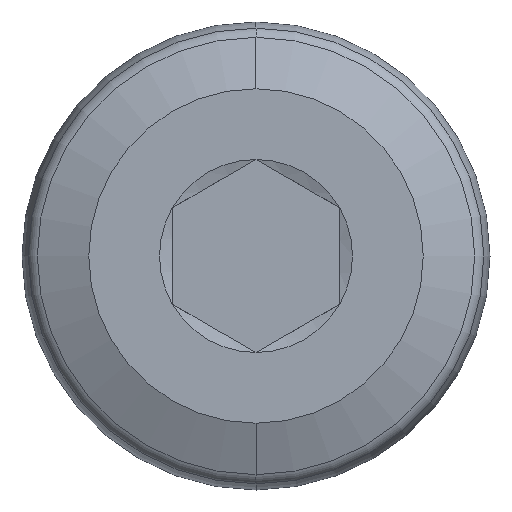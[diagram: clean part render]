
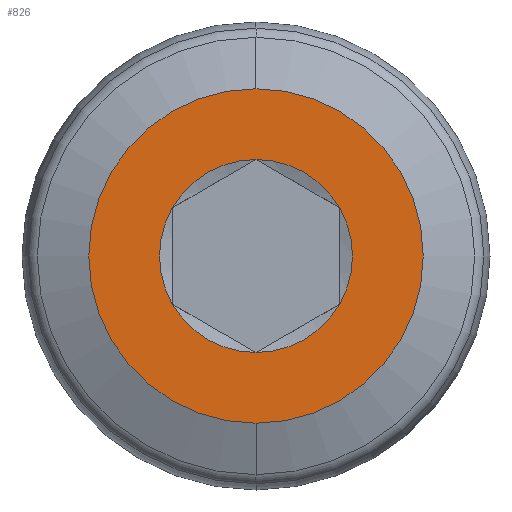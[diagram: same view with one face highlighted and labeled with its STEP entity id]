
A CAD part, left-side view. The second image highlights one B-rep face of the part: STEP entity #826.
In plain terms, the highlighted planar face has unit normal (-1, 0, 0).
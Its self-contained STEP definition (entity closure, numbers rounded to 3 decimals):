
#10 = ORIENTED_EDGE ( 'NONE', *, *, #161, .T. ) ;
#37 = PLANE ( 'NONE',  #352 ) ;
#45 = DIRECTION ( 'NONE',  ( 0., 0., -1. ) ) ;
#52 = EDGE_CURVE ( 'NONE', #353, #159, #70, .T. ) ;
#59 = DIRECTION ( 'NONE',  ( 0., 0., -1. ) ) ;
#69 = AXIS2_PLACEMENT_3D ( 'NONE', #824, #183, #196 ) ;
#70 = CIRCLE ( 'NONE', #751, 5. ) ;
#93 = VERTEX_POINT ( 'NONE', #644 ) ;
#97 = AXIS2_PLACEMENT_3D ( 'NONE', #610, #606, #343 ) ;
#99 = CIRCLE ( 'NONE', #573, 2.887 ) ;
#103 = CARTESIAN_POINT ( 'NONE',  ( 0., 0., 0. ) ) ;
#136 = AXIS2_PLACEMENT_3D ( 'NONE', #401, #527, #268 ) ;
#152 = ORIENTED_EDGE ( 'NONE', *, *, #374, .F. ) ;
#159 = VERTEX_POINT ( 'NONE', #482 ) ;
#161 = EDGE_CURVE ( 'NONE', #396, #458, #163, .T. ) ;
#163 = CIRCLE ( 'NONE', #97, 2.887 ) ;
#167 = CARTESIAN_POINT ( 'NONE',  ( 0., 0., 2.887 ) ) ;
#183 = DIRECTION ( 'NONE',  ( 1., 0., 0. ) ) ;
#196 = DIRECTION ( 'NONE',  ( 0., 0., -1. ) ) ;
#214 = EDGE_CURVE ( 'NONE', #314, #93, #660, .T. ) ;
#215 = DIRECTION ( 'NONE',  ( 1., 0., 0. ) ) ;
#223 = FACE_OUTER_BOUND ( 'NONE', #517, .T. ) ;
#226 = ORIENTED_EDGE ( 'NONE', *, *, #52, .F. ) ;
#231 = DIRECTION ( 'NONE',  ( -1., 0., 0. ) ) ;
#260 = AXIS2_PLACEMENT_3D ( 'NONE', #103, #358, #45 ) ;
#268 = DIRECTION ( 'NONE',  ( 0., 0., -1. ) ) ;
#292 = ORIENTED_EDGE ( 'NONE', *, *, #514, .T. ) ;
#301 = CARTESIAN_POINT ( 'NONE',  ( 0., -2.5, 1.443 ) ) ;
#310 = CIRCLE ( 'NONE', #69, 2.887 ) ;
#314 = VERTEX_POINT ( 'NONE', #301 ) ;
#318 = EDGE_CURVE ( 'NONE', #376, #314, #366, .T. ) ;
#340 = ORIENTED_EDGE ( 'NONE', *, *, #436, .T. ) ;
#343 = DIRECTION ( 'NONE',  ( 0., 0., -1. ) ) ;
#352 = AXIS2_PLACEMENT_3D ( 'NONE', #489, #231, #811 ) ;
#353 = VERTEX_POINT ( 'NONE', #739 ) ;
#357 = EDGE_LOOP ( 'NONE', ( #439, #666, #473, #340, #292, #10 ) ) ;
#358 = DIRECTION ( 'NONE',  ( 1., 0., 0. ) ) ;
#366 = CIRCLE ( 'NONE', #727, 2.887 ) ;
#374 = EDGE_CURVE ( 'NONE', #159, #353, #822, .T. ) ;
#376 = VERTEX_POINT ( 'NONE', #167 ) ;
#382 = DIRECTION ( 'NONE',  ( 0., 0., -1. ) ) ;
#392 = DIRECTION ( 'NONE',  ( 1., 0., 0. ) ) ;
#394 = CARTESIAN_POINT ( 'NONE',  ( 0., 0., 0. ) ) ;
#396 = VERTEX_POINT ( 'NONE', #675 ) ;
#401 = CARTESIAN_POINT ( 'NONE',  ( 0., 0., 0. ) ) ;
#420 = CIRCLE ( 'NONE', #136, 2.887 ) ;
#436 = EDGE_CURVE ( 'NONE', #93, #821, #99, .T. ) ;
#439 = ORIENTED_EDGE ( 'NONE', *, *, #645, .T. ) ;
#458 = VERTEX_POINT ( 'NONE', #639 ) ;
#473 = ORIENTED_EDGE ( 'NONE', *, *, #214, .T. ) ;
#482 = CARTESIAN_POINT ( 'NONE',  ( 0., 0., -5. ) ) ;
#489 = CARTESIAN_POINT ( 'NONE',  ( 0., 5., 0. ) ) ;
#514 = EDGE_CURVE ( 'NONE', #821, #396, #310, .T. ) ;
#517 = EDGE_LOOP ( 'NONE', ( #152, #226 ) ) ;
#527 = DIRECTION ( 'NONE',  ( 1., 0., 0. ) ) ;
#537 = CARTESIAN_POINT ( 'NONE',  ( 0., 0., 0. ) ) ;
#558 = CARTESIAN_POINT ( 'NONE',  ( 0., 0., -2.887 ) ) ;
#565 = DIRECTION ( 'NONE',  ( 0., 0., -1. ) ) ;
#573 = AXIS2_PLACEMENT_3D ( 'NONE', #394, #692, #382 ) ;
#606 = DIRECTION ( 'NONE',  ( 1., 0., 0. ) ) ;
#610 = CARTESIAN_POINT ( 'NONE',  ( 0., 0., 0. ) ) ;
#630 = CARTESIAN_POINT ( 'NONE',  ( 0., 0., 0. ) ) ;
#639 = CARTESIAN_POINT ( 'NONE',  ( 0., 2.5, 1.443 ) ) ;
#644 = CARTESIAN_POINT ( 'NONE',  ( 0., -2.5, -1.443 ) ) ;
#645 = EDGE_CURVE ( 'NONE', #458, #376, #420, .T. ) ;
#660 = CIRCLE ( 'NONE', #763, 2.887 ) ;
#666 = ORIENTED_EDGE ( 'NONE', *, *, #318, .T. ) ;
#675 = CARTESIAN_POINT ( 'NONE',  ( 0., 2.5, -1.443 ) ) ;
#692 = DIRECTION ( 'NONE',  ( 1., 0., 0. ) ) ;
#705 = CARTESIAN_POINT ( 'NONE',  ( 0., 0., 0. ) ) ;
#727 = AXIS2_PLACEMENT_3D ( 'NONE', #630, #747, #565 ) ;
#739 = CARTESIAN_POINT ( 'NONE',  ( 0., 0., 5. ) ) ;
#747 = DIRECTION ( 'NONE',  ( 1., 0., 0. ) ) ;
#751 = AXIS2_PLACEMENT_3D ( 'NONE', #705, #392, #59 ) ;
#763 = AXIS2_PLACEMENT_3D ( 'NONE', #537, #215, #790 ) ;
#790 = DIRECTION ( 'NONE',  ( 0., 0., -1. ) ) ;
#801 = FACE_BOUND ( 'NONE', #357, .T. ) ;
#811 = DIRECTION ( 'NONE',  ( 0., 0., 1. ) ) ;
#821 = VERTEX_POINT ( 'NONE', #558 ) ;
#822 = CIRCLE ( 'NONE', #260, 5. ) ;
#824 = CARTESIAN_POINT ( 'NONE',  ( 0., 0., 0. ) ) ;
#826 = ADVANCED_FACE ( 'NONE', ( #801, #223 ), #37, .T. ) ;
